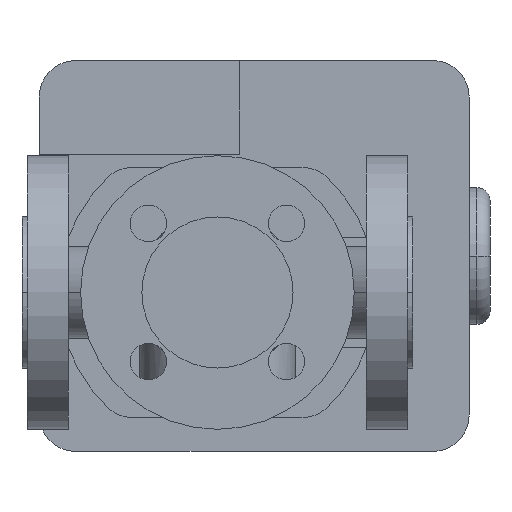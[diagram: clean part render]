
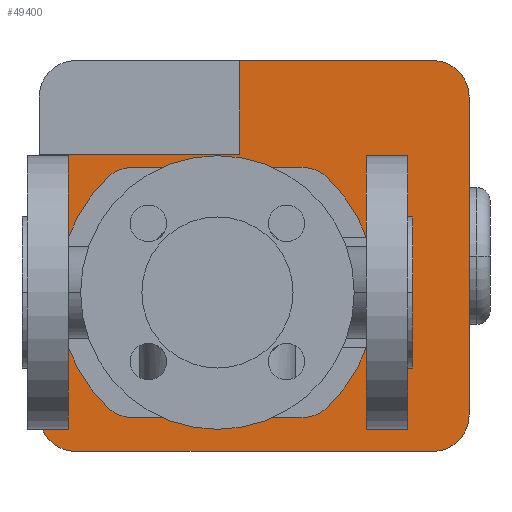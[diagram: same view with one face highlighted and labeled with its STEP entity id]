
A CAD part, front view. The second image highlights one B-rep face of the part: STEP entity #49400.
In plain terms, the highlighted planar face has unit normal (0, -1, 0).
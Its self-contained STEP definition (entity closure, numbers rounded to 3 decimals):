
#41140=CARTESIAN_POINT('',(134.96,313.,11.216));
#41150=VERTEX_POINT('',#41140);
#41180=CARTESIAN_POINT('',(125.,313.,0.));
#41190=DIRECTION('',(0.,1.,0.));
#41200=DIRECTION('',(0.,0.,1.));
#41210=AXIS2_PLACEMENT_3D('',#41180,#41190,#41200);
#41220=CIRCLE('',#41210,15.);
#41230=CARTESIAN_POINT('',(134.96,313.,-11.216));
#41240=VERTEX_POINT('',#41230);
#41250=EDGE_CURVE('',#41150,#41240,#41220,.T.);
#43970=CARTESIAN_POINT('',(117.116,313.,44.128));
#43980=VERTEX_POINT('',#43970);
#44010=CARTESIAN_POINT('',(75.,313.,0.));
#44020=DIRECTION('',(0.,1.,0.));
#44030=DIRECTION('',(0.69,0.,0.723));
#44040=AXIS2_PLACEMENT_3D('',#44010,#44020,#44030);
#44050=CIRCLE('',#44040,61.);
#44060=EDGE_CURVE('',#43980,#41150,#44050,.T.);
#44450=CARTESIAN_POINT('',(15.04,313.,-11.216));
#44460=VERTEX_POINT('',#44450);
#44490=CARTESIAN_POINT('',(25.,313.,0.));
#44500=DIRECTION('',(0.,1.,0.));
#44510=DIRECTION('',(0.,0.,-1.));
#44520=AXIS2_PLACEMENT_3D('',#44490,#44500,#44510);
#44530=CIRCLE('',#44520,15.);
#44540=CARTESIAN_POINT('',(15.04,313.,11.216));
#44550=VERTEX_POINT('',#44540);
#44560=EDGE_CURVE('',#44460,#44550,#44530,.T.);
#45550=CARTESIAN_POINT('',(32.884,313.,-44.128));
#45560=VERTEX_POINT('',#45550);
#45590=CARTESIAN_POINT('',(75.,313.,0.));
#45600=DIRECTION('',(0.,1.,0.));
#45610=DIRECTION('',(-0.69,0.,-0.723));
#45620=AXIS2_PLACEMENT_3D('',#45590,#45600,#45610);
#45630=CIRCLE('',#45620,61.);
#45640=EDGE_CURVE('',#45560,#44460,#45630,.T.);
#47860=CARTESIAN_POINT('',(75.,313.,0.));
#47870=DIRECTION('',(0.,1.,0.));
#47880=DIRECTION('',(0.,0.,1.));
#47890=AXIS2_PLACEMENT_3D('',#47860,#47870,#47880);
#47900=PLANE('',#47890);
#47910=ORIENTED_EDGE('',*,*,#44060,.T.);
#47920=CARTESIAN_POINT('',(107.45,313.,34.));
#47930=DIRECTION('',(0.,1.,0.));
#47940=DIRECTION('',(0.,0.,1.));
#47950=AXIS2_PLACEMENT_3D('',#47920,#47930,#47940);
#47960=CIRCLE('',#47950,14.);
#47970=CARTESIAN_POINT('',(107.45,313.,48.));
#47980=VERTEX_POINT('',#47970);
#47990=EDGE_CURVE('',#47980,#43980,#47960,.T.);
#48000=ORIENTED_EDGE('',*,*,#47990,.T.);
#48010=CARTESIAN_POINT('',(58.775,313.,48.));
#48020=DIRECTION('',(1.,0.,0.));
#48030=VECTOR('',#48020,1.);
#48040=LINE('',#48010,#48030);
#48050=CARTESIAN_POINT('',(42.55,313.,48.));
#48060=VERTEX_POINT('',#48050);
#48070=EDGE_CURVE('',#48060,#47980,#48040,.T.);
#48080=ORIENTED_EDGE('',*,*,#48070,.T.);
#48090=CARTESIAN_POINT('',(42.55,313.,34.));
#48100=DIRECTION('',(0.,1.,0.));
#48110=DIRECTION('',(-0.69,0.,0.723));
#48120=AXIS2_PLACEMENT_3D('',#48090,#48100,#48110);
#48130=CIRCLE('',#48120,14.);
#48140=CARTESIAN_POINT('',(32.884,313.,44.128));
#48150=VERTEX_POINT('',#48140);
#48160=EDGE_CURVE('',#48150,#48060,#48130,.T.);
#48170=ORIENTED_EDGE('',*,*,#48160,.T.);
#48180=CARTESIAN_POINT('',(75.,313.,0.));
#48190=DIRECTION('',(0.,1.,0.));
#48200=DIRECTION('',(-0.69,0.,-0.723));
#48210=AXIS2_PLACEMENT_3D('',#48180,#48190,#48200);
#48220=CIRCLE('',#48210,61.);
#48230=EDGE_CURVE('',#44550,#48150,#48220,.T.);
#48240=ORIENTED_EDGE('',*,*,#48230,.T.);
#48250=ORIENTED_EDGE('',*,*,#44560,.T.);
#48260=ORIENTED_EDGE('',*,*,#45640,.T.);
#48270=CARTESIAN_POINT('',(42.55,313.,-34.));
#48280=DIRECTION('',(0.,1.,0.));
#48290=DIRECTION('',(0.,0.,-1.));
#48300=AXIS2_PLACEMENT_3D('',#48270,#48280,#48290);
#48310=CIRCLE('',#48300,14.);
#48320=CARTESIAN_POINT('',(42.55,313.,-48.));
#48330=VERTEX_POINT('',#48320);
#48340=EDGE_CURVE('',#48330,#45560,#48310,.T.);
#48350=ORIENTED_EDGE('',*,*,#48340,.T.);
#48360=CARTESIAN_POINT('',(91.225,313.,-48.));
#48370=DIRECTION('',(-1.,0.,0.));
#48380=VECTOR('',#48370,1.);
#48390=LINE('',#48360,#48380);
#48400=CARTESIAN_POINT('',(107.45,313.,-48.));
#48410=VERTEX_POINT('',#48400);
#48420=EDGE_CURVE('',#48410,#48330,#48390,.T.);
#48430=ORIENTED_EDGE('',*,*,#48420,.T.);
#48440=CARTESIAN_POINT('',(107.45,313.,-34.));
#48450=DIRECTION('',(0.,1.,0.));
#48460=DIRECTION('',(0.69,0.,-0.723));
#48470=AXIS2_PLACEMENT_3D('',#48440,#48450,#48460);
#48480=CIRCLE('',#48470,14.);
#48490=CARTESIAN_POINT('',(117.116,313.,-44.128));
#48500=VERTEX_POINT('',#48490);
#48510=EDGE_CURVE('',#48500,#48410,#48480,.T.);
#48520=ORIENTED_EDGE('',*,*,#48510,.T.);
#48530=CARTESIAN_POINT('',(75.,313.,0.));
#48540=DIRECTION('',(0.,1.,0.));
#48550=DIRECTION('',(0.69,0.,0.723));
#48560=AXIS2_PLACEMENT_3D('',#48530,#48540,#48550);
#48570=CIRCLE('',#48560,61.);
#48580=EDGE_CURVE('',#41240,#48500,#48570,.T.);
#48590=ORIENTED_EDGE('',*,*,#48580,.T.);
#48600=ORIENTED_EDGE('',*,*,#41250,.T.);
#48610=EDGE_LOOP('',(#48600,#48590,#48520,#48430,#48350,#48260,#48250,
#48240,#48170,#48080,#48000,#47910));
#48620=FACE_BOUND('',#48610,.T.);
#48630=CARTESIAN_POINT('',(83.6,313.,26.5));
#48640=DIRECTION('',(0.,0.,-1.));
#48650=VECTOR('',#48640,1.);
#48660=LINE('',#48630,#48650);
#48670=CARTESIAN_POINT('',(83.6,313.,89.));
#48680=VERTEX_POINT('',#48670);
#48690=CARTESIAN_POINT('',(83.6,313.,53.));
#48700=VERTEX_POINT('',#48690);
#48710=EDGE_CURVE('',#48680,#48700,#48660,.T.);
#48720=ORIENTED_EDGE('',*,*,#48710,.T.);
#48730=CARTESIAN_POINT('',(20.6,313.,89.));
#48740=DIRECTION('',(1.,0.,0.));
#48750=VECTOR('',#48740,1.);
#48760=LINE('',#48730,#48750);
#48770=CARTESIAN_POINT('',(157.6,313.,89.));
#48780=VERTEX_POINT('',#48770);
#48790=EDGE_CURVE('',#48680,#48780,#48760,.T.);
#48800=ORIENTED_EDGE('',*,*,#48790,.F.);
#48810=CARTESIAN_POINT('',(157.6,313.,75.));
#48820=DIRECTION('',(0.,1.,0.));
#48830=DIRECTION('',(0.,0.,1.));
#48840=AXIS2_PLACEMENT_3D('',#48810,#48820,#48830);
#48850=CIRCLE('',#48840,14.);
#48860=CARTESIAN_POINT('',(171.6,313.,75.));
#48870=VERTEX_POINT('',#48860);
#48880=EDGE_CURVE('',#48780,#48870,#48850,.T.);
#48890=ORIENTED_EDGE('',*,*,#48880,.F.);
#48900=CARTESIAN_POINT('',(171.6,313.,75.));
#48910=DIRECTION('',(0.,0.,-1.));
#48920=VECTOR('',#48910,1.);
#48930=LINE('',#48900,#48920);
#48940=CARTESIAN_POINT('',(171.6,313.,-47.));
#48950=VERTEX_POINT('',#48940);
#48960=EDGE_CURVE('',#48870,#48950,#48930,.T.);
#48970=ORIENTED_EDGE('',*,*,#48960,.F.);
#48980=CARTESIAN_POINT('',(157.6,313.,-47.));
#48990=DIRECTION('',(0.,1.,0.));
#49000=DIRECTION('',(1.,0.,0.));
#49010=AXIS2_PLACEMENT_3D('',#48980,#48990,#49000);
#49020=CIRCLE('',#49010,14.);
#49030=CARTESIAN_POINT('',(157.6,313.,-61.));
#49040=VERTEX_POINT('',#49030);
#49050=EDGE_CURVE('',#48950,#49040,#49020,.T.);
#49060=ORIENTED_EDGE('',*,*,#49050,.F.);
#49070=CARTESIAN_POINT('',(157.6,313.,-61.));
#49080=DIRECTION('',(-1.,0.,0.));
#49090=VECTOR('',#49080,1.);
#49100=LINE('',#49070,#49090);
#49110=CARTESIAN_POINT('',(20.6,313.,-61.));
#49120=VERTEX_POINT('',#49110);
#49130=EDGE_CURVE('',#49040,#49120,#49100,.T.);
#49140=ORIENTED_EDGE('',*,*,#49130,.F.);
#49150=CARTESIAN_POINT('',(20.6,313.,-47.));
#49160=DIRECTION('',(0.,1.,0.));
#49170=DIRECTION('',(0.,0.,-1.));
#49180=AXIS2_PLACEMENT_3D('',#49150,#49160,#49170);
#49190=CIRCLE('',#49180,14.);
#49200=CARTESIAN_POINT('',(6.6,313.,-47.));
#49210=VERTEX_POINT('',#49200);
#49220=EDGE_CURVE('',#49120,#49210,#49190,.T.);
#49230=ORIENTED_EDGE('',*,*,#49220,.F.);
#49240=CARTESIAN_POINT('',(6.6,313.,-47.));
#49250=DIRECTION('',(0.,0.,1.));
#49260=VECTOR('',#49250,1.);
#49270=LINE('',#49240,#49260);
#49280=CARTESIAN_POINT('',(6.6,313.,53.));
#49290=VERTEX_POINT('',#49280);
#49300=EDGE_CURVE('',#49210,#49290,#49270,.T.);
#49310=ORIENTED_EDGE('',*,*,#49300,.F.);
#49320=CARTESIAN_POINT('',(40.3,313.,53.));
#49330=DIRECTION('',(-1.,0.,0.));
#49340=VECTOR('',#49330,1.);
#49350=LINE('',#49320,#49340);
#49360=EDGE_CURVE('',#48700,#49290,#49350,.T.);
#49370=ORIENTED_EDGE('',*,*,#49360,.T.);
#49380=EDGE_LOOP('',(#49370,#49310,#49230,#49140,#49060,#48970,#48890,
#48800,#48720));
#49390=FACE_OUTER_BOUND('',#49380,.T.);
#49400=ADVANCED_FACE('',(#48620,#49390),#47900,.F.);
